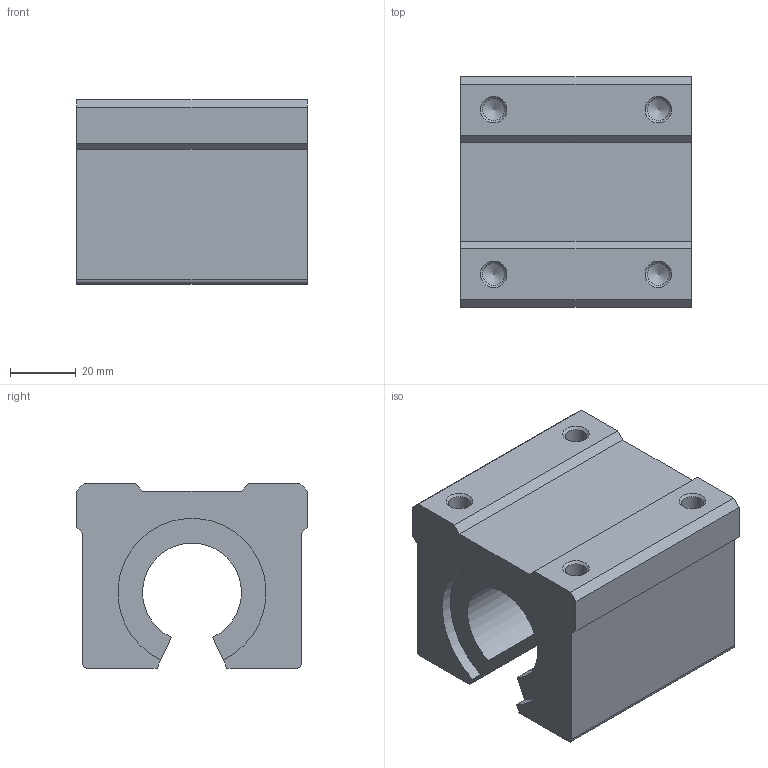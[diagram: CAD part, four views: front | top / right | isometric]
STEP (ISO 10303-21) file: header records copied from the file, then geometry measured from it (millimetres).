
FILE_DESCRIPTION( ( 'Unknown' ), '1' );
FILE_NAME( 'D:/累诀/己绕皋墨飘肺葱胶/11-04-06_档搁累己/01_府聪绢何教/SSBR/SBR30SA.stp', 'Unknown', ( 'Unknown' ), ( 'Unknown' ), 'PSStep 11.0', 'Unknown', ' ' );
FILE_SCHEMA( ( 'AUTOMOTIVE_DESIGN { 1 0 10303 214 1 1 1 1 }' ) );
Length unit declared in the file: millimetre
Products named in the file (1): SBR__
Bounding box: 70 x 70 x 56 mm (x, y, z)
Volume: 190429.6 mm3; surface area: 30699.5 mm2
Topology: 1 solids, 1 shells, 42 faces, 112 edges, 72 vertices
Faces by surface type: plane 21, cylinder 13, cone 8
Full cylindrical faces by diameter (mm): 6.647 x8
Entity records: 1514 total; most frequent: DIRECTION 200, CARTESIAN_POINT 199, ORIENTED_EDGE 176, EDGE_CURVE 88, AXIS2_PLACEMENT_3D 69, VERTEX_POINT 68, LINE 62, VECTOR 62
